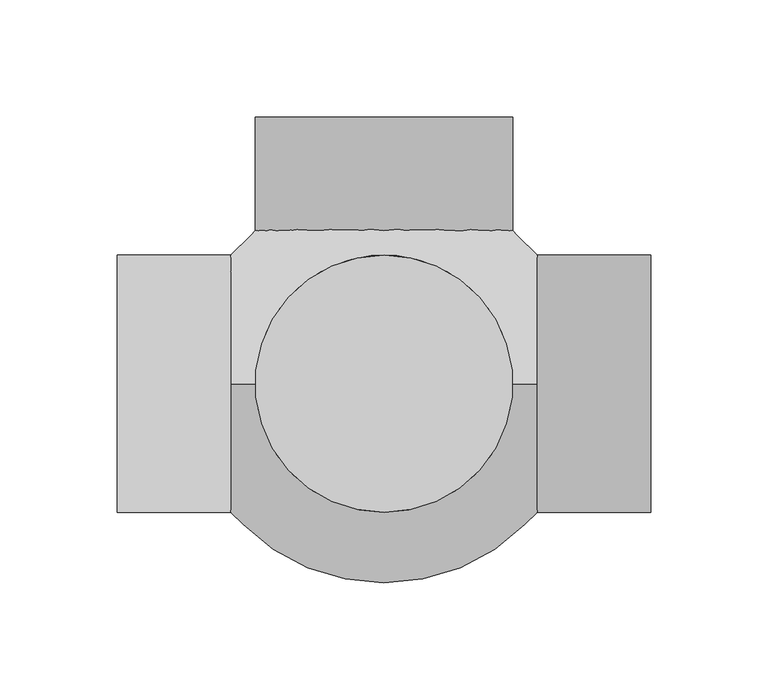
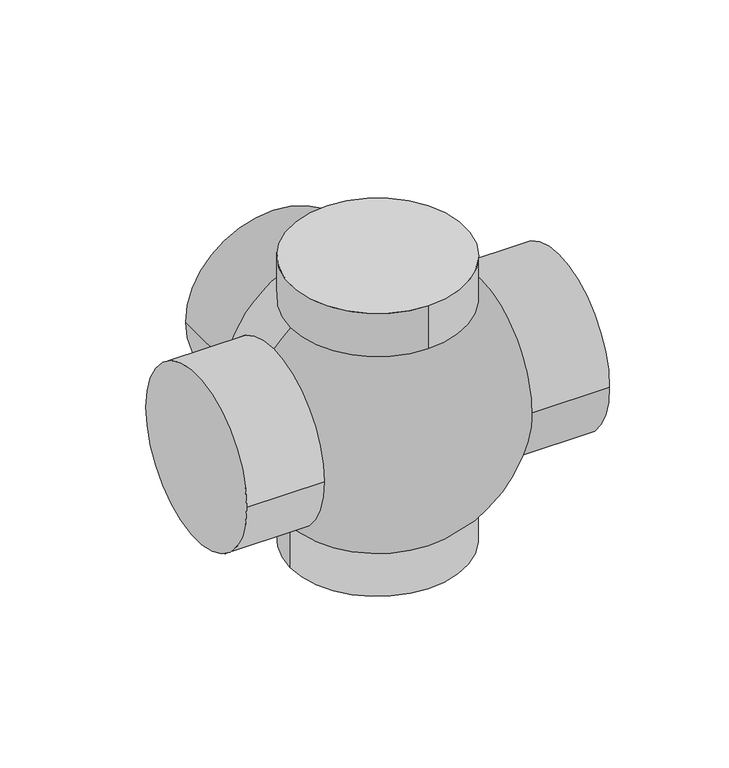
"""IFC4 building model written with IfcOpenShell, lengths in millimetres: pipe fitting geometry, Wavin_PipeAccessory_PeBranchConvexX3 : 90°."""

from ifc_helpers import new_model, si_unit, point, frame, origin, place, context, project, spatial, circle_curve, ellipse_curve, trimmed, source, transform, mapped, element, save
from ifc_brep_helpers import plane_surface, cylinder_surface, revolved_surface, advanced_brep


def pipe_fitting_54520c76(model_context):
    return source(origin(), model_context, "Body", "AdvancedBrep", [
        advanced_brep(
        [(114.0, -55.0, 0.0), (114.0, 55.0, 0.0), (65.4618209, 55.0, 0.0), (65.4618209, 0.0, 55.0), (65.4618209, -55.0, 0.0), (65.4618209, 0.0, -55.0), (-114.0, 55.0, 0.0), (-114.0, -55.0, 0.0), (-65.4618209, -55.0, 0.0), (-65.4618209, 0.0, 55.0), (-65.4618209, 55.0, 0.0), (-65.4618209, 0.0, -55.0), (55.0, 0.0, -65.4618209), (-55.0, 0.0, -65.4618209), (-55.0, 0.0, 65.4618209), (0.0, 55.0, 65.4618209), (55.0, 0.0, 65.4618209), (55.0, 65.4618209, 0.0), (-55.0, 65.4618209, 0.0), (0.0, -55.0, 65.4618209), (55.0, 0.0, -94.0), (-55.0, 0.0, -94.0), (0.0, 55.0, 94.0), (0.0, -55.0, 94.0), (-55.0, 114.0, 0.0), (55.0, 114.0, 0.0)],
        [
            (0, 1, circle_curve(frame((114.0, 0.0, 0.0), z_axis=(1.0, 0.0, 0.0), x_axis=(0.0, 1.0, 0.0)), 55.0)),
            (1, 0, circle_curve(frame((114.0, 0.0, 0.0), z_axis=(1.0, 0.0, 0.0), x_axis=(0.0, 1.0, 0.0)), 55.0)),
            (1, 2),
            (2, 3, circle_curve(frame((65.4618209, 0.0, 0.0), z_axis=(1.0, 0.0, 0.0), x_axis=(0.0, 1.0, 0.0)), 55.0)),
            (3, 4, circle_curve(frame((65.4618209, 0.0, 0.0), z_axis=(1.0, 0.0, 0.0), x_axis=(0.0, 1.0, 0.0)), 55.0)),
            (4, 0),
            (4, 5, circle_curve(frame((65.4618209, 0.0, 0.0), z_axis=(1.0, 0.0, 0.0), x_axis=(0.0, 1.0, 0.0)), 55.0)),
            (5, 2, circle_curve(frame((65.4618209, 0.0, 0.0), z_axis=(1.0, 0.0, 0.0), x_axis=(0.0, 1.0, 0.0)), 55.0)),
            (6, 7, circle_curve(frame((-114.0, 0.0, 0.0), z_axis=(-1.0, 0.0, 0.0), x_axis=(0.0, -1.0, 0.0)), 55.0)),
            (7, 6, circle_curve(frame((-114.0, 0.0, 0.0), z_axis=(-1.0, 0.0, 0.0), x_axis=(0.0, -1.0, 0.0)), 55.0)),
            (7, 8),
            (8, 9, circle_curve(frame((-65.4618209, 0.0, 0.0), z_axis=(-1.0, 0.0, 0.0), x_axis=(0.0, -1.0, 0.0)), 55.0)),
            (9, 10, circle_curve(frame((-65.4618209, 0.0, 0.0), z_axis=(-1.0, 0.0, 0.0), x_axis=(0.0, -1.0, 0.0)), 55.0)),
            (10, 6),
            (10, 11, circle_curve(frame((-65.4618209, 0.0, 0.0), z_axis=(-1.0, 0.0, 0.0), x_axis=(0.0, -1.0, 0.0)), 55.0)),
            (11, 8, circle_curve(frame((-65.4618209, 0.0, 0.0), z_axis=(-1.0, 0.0, 0.0), x_axis=(0.0, -1.0, 0.0)), 55.0)),
            (5, 12, circle_curve(frame((0.0, 0.0, 0.0), z_axis=(0.0, 1.0, 0.0), x_axis=(1.0, 0.0, 0.0)), 85.5)),
            (12, 13, circle_curve(frame((0.0, 0.0, -65.4618209), z_axis=(0.0, 0.0, 1.0), x_axis=(1.0, 0.0, 0.0)), 55.0)),
            (13, 11, circle_curve(frame((0.0, 0.0, 0.0), z_axis=(0.0, 1.0, 0.0), x_axis=(-1.0, 0.0, 0.0)), 85.5)),
            (9, 14, circle_curve(frame((0.0, 0.0, 0.0), z_axis=(0.0, 1.0, 0.0), x_axis=(-1.0, 0.0, 0.0)), 85.5)),
            (14, 15, circle_curve(frame((0.0, 0.0, 65.4618209), z_axis=(0.0, 0.0, -1.0), x_axis=(1.0, 0.0, 0.0)), 55.0)),
            (15, 16, circle_curve(frame((0.0, 0.0, 65.4618209), z_axis=(0.0, 0.0, -1.0), x_axis=(1.0, 0.0, 0.0)), 55.0)),
            (16, 3, circle_curve(frame((0.0, 0.0, 0.0), z_axis=(0.0, 1.0, 0.0), x_axis=(1.0, 0.0, 0.0)), 85.5)),
            (17, 18, circle_curve(frame((0.0, 65.4618209, 0.0), z_axis=(0.0, -1.0, 0.0), x_axis=(1.0, 0.0, 0.0)), 55.0)),
            (18, 17, circle_curve(frame((0.0, 65.4618209, 0.0), z_axis=(0.0, -1.0, 0.0), x_axis=(1.0, 0.0, 0.0)), 55.0)),
            (16, 19, circle_curve(frame((0.0, 0.0, 65.4618209), z_axis=(0.0, 0.0, -1.0), x_axis=(1.0, 0.0, 0.0)), 55.0)),
            (19, 14, circle_curve(frame((0.0, 0.0, 65.4618209), z_axis=(0.0, 0.0, -1.0), x_axis=(1.0, 0.0, 0.0)), 55.0)),
            (13, 12, circle_curve(frame((0.0, 0.0, -65.4618209), z_axis=(0.0, 0.0, 1.0), x_axis=(1.0, 0.0, 0.0)), 55.0)),
            (20, 21, circle_curve(frame((0.0, 0.0, -94.0), z_axis=(0.0, 0.0, -1.0), x_axis=(-1.0, 0.0, 0.0)), 55.0)),
            (21, 20, circle_curve(frame((0.0, 0.0, -94.0), z_axis=(0.0, 0.0, -1.0), x_axis=(-1.0, 0.0, 0.0)), 55.0)),
            (20, 12),
            (13, 21),
            (22, 23, circle_curve(frame((0.0, 0.0, 94.0), z_axis=(0.0, 0.0, 1.0), x_axis=(0.0, -1.0, 0.0)), 55.0)),
            (23, 22, circle_curve(frame((0.0, 0.0, 94.0), z_axis=(0.0, 0.0, 1.0), x_axis=(0.0, -1.0, 0.0)), 55.0)),
            (22, 15),
            (19, 23),
            (24, 25, circle_curve(frame((0.0, 114.0, 0.0), z_axis=(0.0, 1.0, 0.0), x_axis=(1.0, 0.0, 0.0)), 55.0)),
            (25, 24, circle_curve(frame((0.0, 114.0, 0.0), z_axis=(0.0, 1.0, 0.0), x_axis=(1.0, 0.0, 0.0)), 55.0)),
            (24, 18),
            (17, 25),
        ],
        [
            plane_surface(frame((114.0, 0.0, 0.0), z_axis=(1.0, 0.0, 0.0), x_axis=(0.0, 0.0, 1.0))),
            cylinder_surface(frame((0.0, 0.0, 0.0), z_axis=(-1.0, 0.0, 0.0), x_axis=(0.0, 1.0, 0.0)), 55.0),
            plane_surface(frame((-114.0, 0.0, 0.0), z_axis=(-1.0, 0.0, 0.0), x_axis=(0.0, 0.0, 1.0))),
            cylinder_surface(frame((0.0, 0.0, 0.0), z_axis=(1.0, 0.0, 0.0), x_axis=(0.0, -1.0, 0.0)), 55.0),
            revolved_surface(trimmed(ellipse_curve(frame((0.0, 0.0, 0.0), z_axis=(0.0, -1.0, 0.0), x_axis=(1.0, 0.0, 0.0)), 85.5, 85.5), [point((0.0, 0.0, -85.5))], [point((0.0, 0.0, 85.5))], True, "CARTESIAN"), (0.0, 0.0, 355.5), (0.0, 0.0, 1.0)),
            plane_surface(frame((0.0, 0.0, -94.0), z_axis=(0.0, 0.0, -1.0), x_axis=(0.0, -1.0, 0.0))),
            cylinder_surface(frame((0.0, 0.0, -94.0), z_axis=(0.0, 0.0, -1.0), x_axis=(-1.0, 0.0, 0.0)), 55.0),
            plane_surface(frame((0.0, 0.0, 94.0), z_axis=(0.0, 0.0, 1.0), x_axis=(0.0, -1.0, 0.0))),
            cylinder_surface(frame((0.0, 0.0, 94.0), z_axis=(0.0, 0.0, 1.0), x_axis=(0.0, -1.0, 0.0)), 55.0),
            plane_surface(frame((0.0, 114.0, 0.0), z_axis=(0.0, 1.0, 0.0), x_axis=(0.0, 0.0, 1.0))),
            cylinder_surface(frame((0.0, 114.0, 0.0), z_axis=(0.0, 1.0, 0.0), x_axis=(1.0, 0.0, 0.0)), 55.0),
        ],
        [
            (0, [[1, 2]]),
            (1, [[-2, 3, 4, 5, 6]]),
            (1, [[-1, -6, 7, 8, -3]]),
            (2, [[9, 10]]),
            (3, [[-10, 11, 12, 13, 14]]),
            (3, [[-9, -14, 15, 16, -11]]),
            (4, [[-4, -8, 17, 18, 19, -15, -13, 20, 21, 22, 23], [24, 25]]),
            (4, [[-5, -23, 26, 27, -20, -12, -16, -19, 28, -17, -7]]),
            (5, [[29, 30]]),
            (6, [[-29, 31, -28, 32]]),
            (6, [[-30, -32, -18, -31]]),
            (7, [[33, 34]]),
            (8, [[-33, 35, -21, -27, 36]]),
            (8, [[-34, -36, -26, -22, -35]]),
            (9, [[37, 38]]),
            (10, [[-37, 39, -24, 40]]),
            (10, [[-38, -40, -25, -39]]),
        ],
    ),
    ])


if __name__ == "__main__":
    model = new_model("IFC4")
    model_context = context("Model", 3, world=origin())
    ifc_project = project(units=[si_unit("LENGTHUNIT", "METRE", prefix="MILLI")], contexts=[model_context])
    site = spatial("IfcSite", under=ifc_project)
    building = spatial("IfcBuilding", under=site)
    placement = place(None, origin())
    pipe_fitting_shape = pipe_fitting_54520c76(model_context)
    element("IfcPipeFitting", 1, ObjectType="Wavin_PipeAccessory_PeBranchConvexX3 : 90°", at=placement, inside=building, context=model_context, shape_type="MappedRepresentation", body=[
        mapped(pipe_fitting_shape, transform((0.0, 0.0, 0.0), x_axis=(1.0, 0.0, 0.0), y_axis=(0.0, 1.0, 0.0), z_axis=(0.0, 0.0, 1.0))),
    ])
    save(model, "model.ifc")
